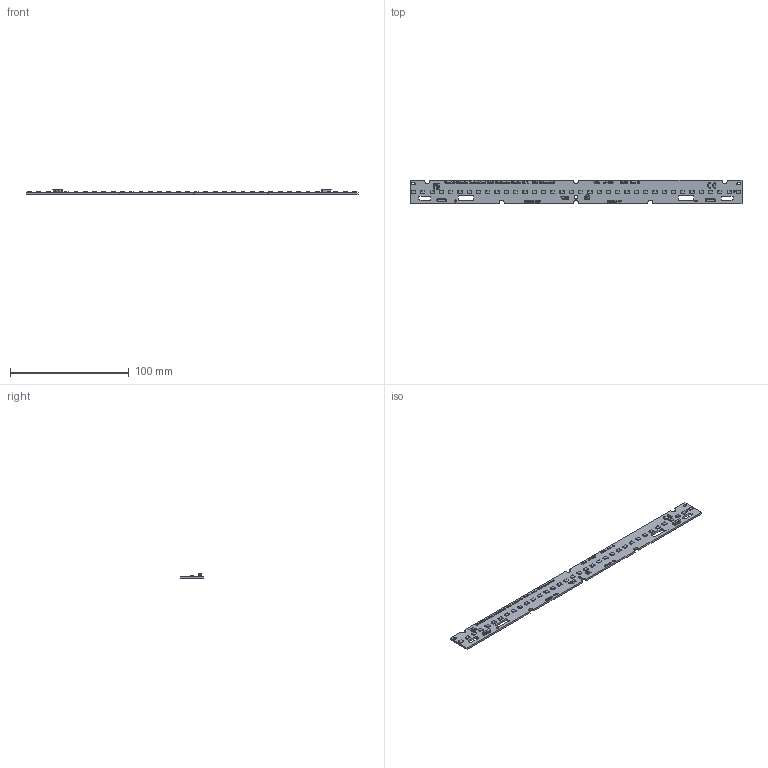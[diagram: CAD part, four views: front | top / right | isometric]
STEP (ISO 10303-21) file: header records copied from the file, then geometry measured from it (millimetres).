
FILE_DESCRIPTION(('Creo Elements/Direct Modeling STEP Export'),'2;1');
FILE_NAME('3D-Model_MLC SC W2_280_36_yzz HE G3_(WU-M-736)_STC.stp','2025-05-08T10:21:27',(''),(''),'PTC Creo Elements/Direct Modeling STEP processor for AP214 (Solid Model)','PTC Creo Elements/Direct Modeling 19.0E 27-Jun-2016 (C) Parametric Technology GmbH','');
FILE_SCHEMA(('AUTOMOTIVE_DESIGN { 1 0 10303 214 1 1 1 1 }'));
Length unit declared in the file: millimetre
Products named in the file (170): p1.2; p1.1; p1; PRINT.97; PRINT.100; PRINT.106; PRINT.87; PRINT.96; PRINT.98; PRINT.104; PRINT.101; PRINT.102; PRINT.99; PRINT.107; PRINT.95; PRINT.90; PRINT.85; PRINT.86; PRINT.103; PRINT.105; PRINT.89; PRINT.93; PRINT.88; PRINT.94; PRINT.92; PRINT.91; PRINT.64; PRINT.67; PRINT.68; PRINT.66; PRINT.62; PRINT.63; PRINT.74; PRINT.65; PRINT.75; PRINT.69; PRINT.71; PRINT.72; PRINT.81; PRINT.82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
Assembly tree (164 placements, depth 2):
  p1.2
  p1.1
  p1
  Print
    PRINT.38
    PRINT.37
    PRINT.32
    PRINT.26
    PRINT.27
    PRINT.22
    PRINT.25
    PRINT.33
    PRINT.35
    PRINT.31
    PRINT.23
    PRINT.21
    PRINT.19
    PRINT.29
    PRINT.24
    PRINT.28
    PRINT.34
    PRINT.30
    PRINT.20
    PRINT.36
    PRINT.39
    PRINT.18
    PRINT.6
    PRINT.15
    PRINT.17
    PRINT.14
    PRINT.13
    PRINT.12
    PRINT.16
    PRINT.10
    PRINT.8
    PRINT.11
    PRINT.7
    PRINT.9
    PRINT.122
    PRINT.124
    PRINT.118
    PRINT.125
    PRINT.112
    PRINT.119
    PRINT.115
    PRINT.108
    PRINT.120
    PRINT.123
    PRINT.109
    PRINT.114
    PRINT.110
    PRINT.121
    PRINT.117
    PRINT.111
    PRINT.113
    PRINT.116
    PRINT.50
    PRINT.43
    PRINT.52
    PRINT.49
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Bounding box: 279 x 20 x 4.41 mm (x, y, z)
Volume: 8776.6 mm3; surface area: 13377.5 mm2
Topology: 165 solids, 165 shells, 6406 faces, 17524 edges, 11546 vertices
Faces by surface type: plane 4918, cylinder 1488
Entity records: 127781 total; most frequent: CARTESIAN_POINT 17653, ORIENTED_EDGE 17208, DIRECTION 16915, EDGE_CURVE 8604, VECTOR 6873, LINE 6873, VERTEX_POINT 5730, AXIS2_PLACEMENT_3D 5021
